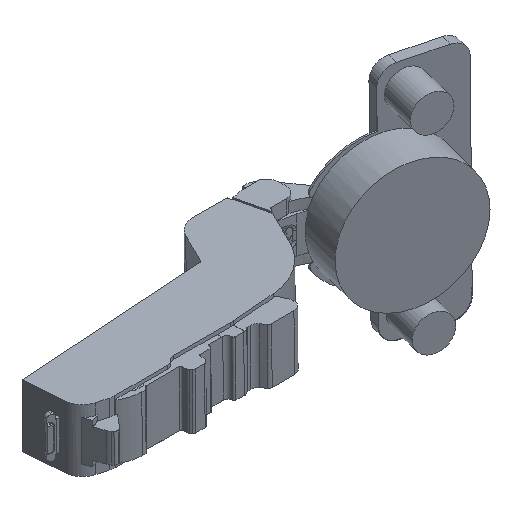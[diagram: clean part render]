
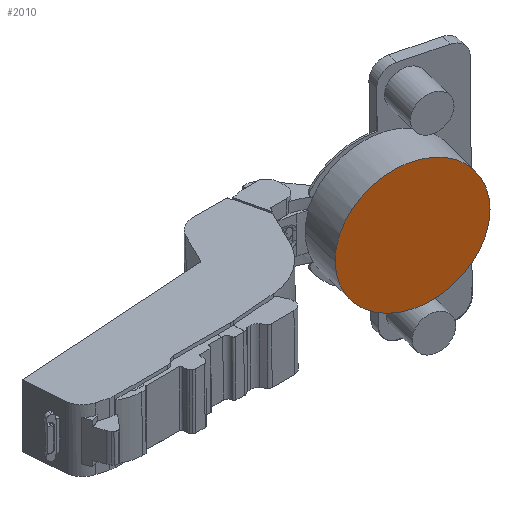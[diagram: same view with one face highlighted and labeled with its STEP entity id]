
A CAD part, isometric view. The second image highlights one B-rep face of the part: STEP entity #2010.
In plain terms, the highlighted planar face has unit normal (-0.254, -0.967, 0.009).
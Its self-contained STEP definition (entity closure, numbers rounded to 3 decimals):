
#89 = DIRECTION ( 'NONE',  ( -0.967, 0.254, 0. ) ) ;
#214 = AXIS2_PLACEMENT_3D ( 'NONE', #13688, #13518, #89 ) ;
#732 = VERTEX_POINT ( 'NONE', #2470 ) ;
#868 = CARTESIAN_POINT ( 'NONE',  ( 24.562, 14.458, -0.749 ) ) ;
#944 = CARTESIAN_POINT ( 'NONE',  ( 21.258, 15.327, -0.637 ) ) ;
#1027 = CARTESIAN_POINT ( 'NONE',  ( 39.049, 10.511, -15.762 ) ) ;
#1115 = CARTESIAN_POINT ( 'NONE',  ( 35.03, 11.653, -6.541 ) ) ;
#2010 = ADVANCED_FACE ( 'NONE', ( #12138 ), #3691, .T. ) ;
#2172 = B_SPLINE_CURVE_WITH_KNOTS ( 'NONE', 3,
 ( #9631, #16015, #1027, #6029, #12336, #8410, #11033, #7180, #1115, #4869, #3401, #12086, #13397, #3641, #8647, #868, #4712, #944, #6117, #5948, #15768, #12003, #7018, #14611, #9873, #5872, #10948, #15929, #9715, #4554, #14699, #14530, #3484, #13474 ),
 .UNSPECIFIED., .F., .F.,
 ( 4, 2, 2, 2, 2, 2, 2, 2, 2, 2, 2, 2, 2, 2, 2, 2, 4 ),
 ( 0., 0.063, 0.125, 0.188, 0.25, 0.313, 0.375, 0.438, 0.5, 0.563, 0.625, 0.688, 0.75, 0.813, 0.875, 0.938, 1. ),
 .UNSPECIFIED. ) ;
#2213 = ORIENTED_EDGE ( 'NONE', *, *, #8450, .T. ) ;
#2470 = CARTESIAN_POINT ( 'NONE',  ( 5.494, 19.305, -18.037 ) ) ;
#3116 = AXIS2_PLACEMENT_3D ( 'NONE', #7248, #5939, #12240 ) ;
#3146 = EDGE_CURVE ( 'NONE', #732, #8547, #3898, .T. ) ;
#3401 = CARTESIAN_POINT ( 'NONE',  ( 32.623, 12.308, -4.204 ) ) ;
#3484 = CARTESIAN_POINT ( 'NONE',  ( 5.497, 19.315, -16.894 ) ) ;
#3641 = CARTESIAN_POINT ( 'NONE',  ( 27.781, 13.605, -1.525 ) ) ;
#3691 = PLANE ( 'NONE',  #214 ) ;
#3898 = CIRCLE ( 'NONE', #3116, 17.4 ) ;
#4554 = CARTESIAN_POINT ( 'NONE',  ( 6.365, 19.129, -12.433 ) ) ;
#4712 = CARTESIAN_POINT ( 'NONE',  ( 23.468, 14.746, -0.637 ) ) ;
#4727 = ORIENTED_EDGE ( 'NONE', *, *, #3146, .T. ) ;
#4869 = CARTESIAN_POINT ( 'NONE',  ( 33.472, 12.078, -4.926 ) ) ;
#5872 = CARTESIAN_POINT ( 'NONE',  ( 9.668, 18.316, -6.541 ) ) ;
#5939 = DIRECTION ( 'NONE',  ( -0.254, -0.967, 0.009 ) ) ;
#5948 = CARTESIAN_POINT ( 'NONE',  ( 17.995, 16.179, -1.194 ) ) ;
#6029 = CARTESIAN_POINT ( 'NONE',  ( 38.623, 10.644, -13.522 ) ) ;
#6117 = CARTESIAN_POINT ( 'NONE',  ( 20.163, 15.613, -0.749 ) ) ;
#7018 = CARTESIAN_POINT ( 'NONE',  ( 13.927, 17.231, -2.935 ) ) ;
#7180 = CARTESIAN_POINT ( 'NONE',  ( 35.726, 11.462, -7.42 ) ) ;
#7248 = CARTESIAN_POINT ( 'NONE',  ( 22.323, 14.884, -18.037 ) ) ;
#8410 = CARTESIAN_POINT ( 'NONE',  ( 37.466, 10.978, -10.323 ) ) ;
#8450 = EDGE_CURVE ( 'NONE', #8547, #732, #2172, .T. ) ;
#8547 = VERTEX_POINT ( 'NONE', #16171 ) ;
#8647 = CARTESIAN_POINT ( 'NONE',  ( 26.728, 13.884, -1.194 ) ) ;
#9631 = CARTESIAN_POINT ( 'NONE',  ( 39.152, 10.463, -18.037 ) ) ;
#9715 = CARTESIAN_POINT ( 'NONE',  ( 7.216, 18.925, -10.323 ) ) ;
#9873 = CARTESIAN_POINT ( 'NONE',  ( 11.234, 17.92, -4.926 ) ) ;
#10948 = CARTESIAN_POINT ( 'NONE',  ( 8.968, 18.492, -7.42 ) ) ;
#11033 = CARTESIAN_POINT ( 'NONE',  ( 36.949, 11.123, -9.32 ) ) ;
#12003 = CARTESIAN_POINT ( 'NONE',  ( 14.898, 16.981, -2.399 ) ) ;
#12086 = CARTESIAN_POINT ( 'NONE',  ( 30.789, 12.801, -2.935 ) ) ;
#12138 = FACE_OUTER_BOUND ( 'NONE', #14367, .T. ) ;
#12240 = DIRECTION ( 'NONE',  ( 0.967, -0.254, 0. ) ) ;
#12336 = CARTESIAN_POINT ( 'NONE',  ( 38.306, 10.737, -12.433 ) ) ;
#13397 = CARTESIAN_POINT ( 'NONE',  ( 29.82, 13.061, -2.399 ) ) ;
#13474 = CARTESIAN_POINT ( 'NONE',  ( 5.494, 19.305, -18.037 ) ) ;
#13518 = DIRECTION ( 'NONE',  ( -0.254, -0.967, 0.009 ) ) ;
#13688 = CARTESIAN_POINT ( 'NONE',  ( 22.323, 14.884, -18.037 ) ) ;
#14367 = EDGE_LOOP ( 'NONE', ( #4727, #2213 ) ) ;
#14530 = CARTESIAN_POINT ( 'NONE',  ( 5.607, 19.297, -15.762 ) ) ;
#14611 = CARTESIAN_POINT ( 'NONE',  ( 12.087, 17.703, -4.204 ) ) ;
#14699 = CARTESIAN_POINT ( 'NONE',  ( 6.043, 19.203, -13.522 ) ) ;
#15768 = CARTESIAN_POINT ( 'NONE',  ( 16.941, 16.453, -1.525 ) ) ;
#15929 = CARTESIAN_POINT ( 'NONE',  ( 7.736, 18.798, -9.32 ) ) ;
#16015 = CARTESIAN_POINT ( 'NONE',  ( 39.154, 10.473, -16.894 ) ) ;
#16171 = CARTESIAN_POINT ( 'NONE',  ( 39.152, 10.463, -18.037 ) ) ;
